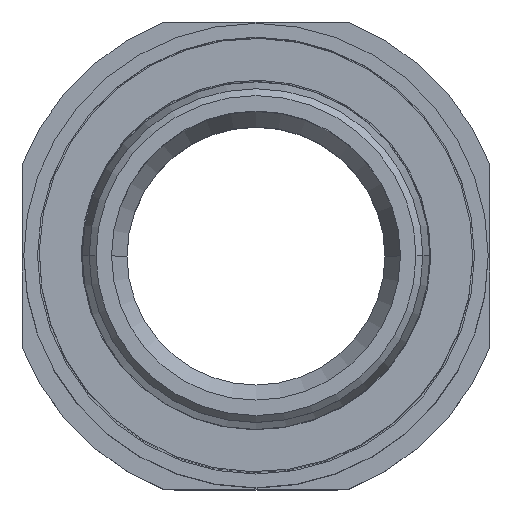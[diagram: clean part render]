
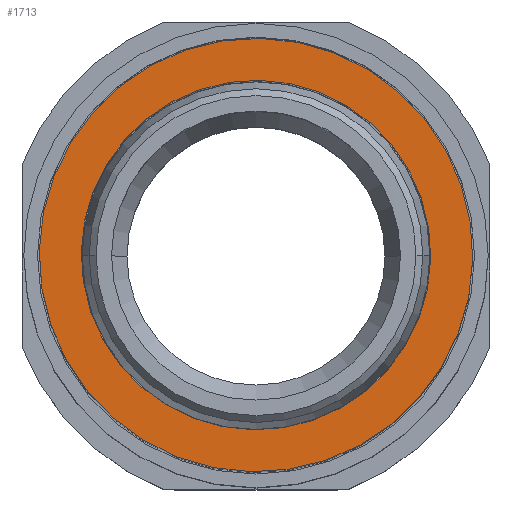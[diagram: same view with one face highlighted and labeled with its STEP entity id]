
A CAD part, top view. The second image highlights one B-rep face of the part: STEP entity #1713.
In plain terms, the highlighted planar face has unit normal (0, 0, 1).
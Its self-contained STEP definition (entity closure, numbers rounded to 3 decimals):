
#509 = AXIS2_PLACEMENT_3D ( 'NONE', #923, #924, #925 ) ;
#916 = PLANE ( 'NONE',  #509 ) ;
#923 = CARTESIAN_POINT ( 'NONE',  ( 0., 0., 45. ) ) ;
#924 = DIRECTION ( 'NONE',  ( 0., 0., 1. ) ) ;
#925 = DIRECTION ( 'NONE',  ( 0.519, 0.855, 0. ) ) ;
#1090 = FACE_OUTER_BOUND ( 'NONE', #2679, .T. ) ;
#1094 = FACE_BOUND ( 'NONE', #2669, .T. ) ;
#1336 = CARTESIAN_POINT ( 'NONE',  ( 0., 0., 45. ) ) ;
#1337 = DIRECTION ( 'NONE',  ( 0., 0., 1. ) ) ;
#1338 = DIRECTION ( 'NONE',  ( 0.519, 0.855, 0. ) ) ;
#1346 = CARTESIAN_POINT ( 'NONE',  ( 0., 0., 45. ) ) ;
#1347 = DIRECTION ( 'NONE',  ( 0., 0., 1. ) ) ;
#1348 = DIRECTION ( 'NONE',  ( 0.519, 0.855, 0. ) ) ;
#1353 = CARTESIAN_POINT ( 'NONE',  ( 0., 0., 45. ) ) ;
#1354 = DIRECTION ( 'NONE',  ( 0., 0., 1. ) ) ;
#1355 = DIRECTION ( 'NONE',  ( 0.519, 0.855, 0. ) ) ;
#1356 = CARTESIAN_POINT ( 'NONE',  ( 0., 0., 45. ) ) ;
#1357 = DIRECTION ( 'NONE',  ( 0., 0., 1. ) ) ;
#1358 = DIRECTION ( 'NONE',  ( 0.519, 0.855, 0. ) ) ;
#1507 = EDGE_CURVE ( 'NONE', #2151, #2152, #1612, .T. ) ;
#1510 = EDGE_CURVE ( 'NONE', #2155, #2158, #1621, .T. ) ;
#1514 = EDGE_CURVE ( 'NONE', #2158, #2155, #1625, .T. ) ;
#1515 = EDGE_CURVE ( 'NONE', #2152, #2151, #1630, .T. ) ;
#1543 = ORIENTED_EDGE ( 'NONE', *, *, #1514, .T. ) ;
#1544 = ORIENTED_EDGE ( 'NONE', *, *, #1510, .T. ) ;
#1545 = ORIENTED_EDGE ( 'NONE', *, *, #1507, .F. ) ;
#1546 = ORIENTED_EDGE ( 'NONE', *, *, #1515, .F. ) ;
#1612 = CIRCLE ( 'NONE', #2361, 25.4 ) ;
#1621 = CIRCLE ( 'NONE', #2363, 31.5 ) ;
#1625 = CIRCLE ( 'NONE', #2365, 31.5 ) ;
#1630 = CIRCLE ( 'NONE', #2366, 25.4 ) ;
#1713 = ADVANCED_FACE ( 'NONE', ( #1090, #1094 ), #916, .T. ) ;
#2151 = VERTEX_POINT ( 'NONE', #2817 ) ;
#2152 = VERTEX_POINT ( 'NONE', #2818 ) ;
#2155 = VERTEX_POINT ( 'NONE', #2821 ) ;
#2158 = VERTEX_POINT ( 'NONE', #2824 ) ;
#2361 = AXIS2_PLACEMENT_3D ( 'NONE', #1336, #1337, #1338 ) ;
#2363 = AXIS2_PLACEMENT_3D ( 'NONE', #1346, #1347, #1348 ) ;
#2365 = AXIS2_PLACEMENT_3D ( 'NONE', #1353, #1354, #1355 ) ;
#2366 = AXIS2_PLACEMENT_3D ( 'NONE', #1356, #1357, #1358 ) ;
#2669 = EDGE_LOOP ( 'NONE', ( #1545, #1546 ) ) ;
#2679 = EDGE_LOOP ( 'NONE', ( #1543, #1544 ) ) ;
#2817 = CARTESIAN_POINT ( 'NONE',  ( -13.17, -21.719, 45. ) ) ;
#2818 = CARTESIAN_POINT ( 'NONE',  ( 13.17, 21.719, 45. ) ) ;
#2821 = CARTESIAN_POINT ( 'NONE',  ( 16.333, 26.935, 45. ) ) ;
#2824 = CARTESIAN_POINT ( 'NONE',  ( -16.333, -26.935, 45. ) ) ;
